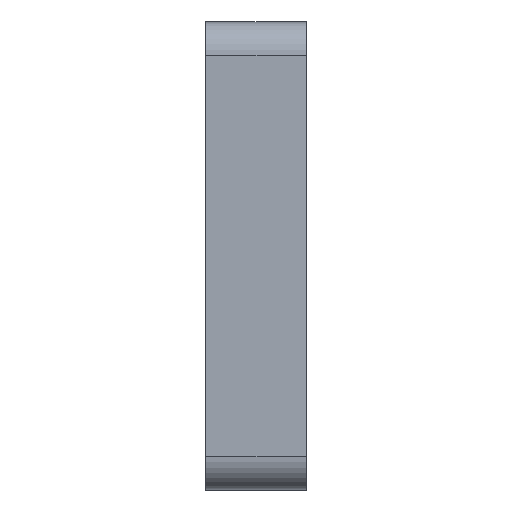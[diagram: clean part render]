
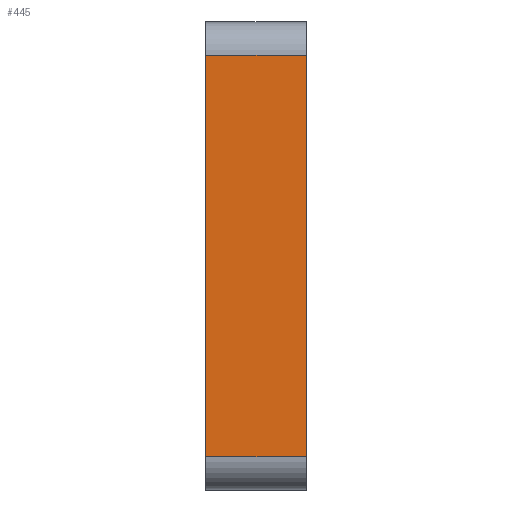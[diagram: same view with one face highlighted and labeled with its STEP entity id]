
A CAD part, left-side view. The second image highlights one B-rep face of the part: STEP entity #445.
In plain terms, the highlighted planar face has unit normal (-1, 0, 0).
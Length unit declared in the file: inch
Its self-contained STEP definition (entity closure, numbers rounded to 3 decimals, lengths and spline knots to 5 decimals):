
#21 = DIRECTION ( 'NONE',  ( 0., 0., 1. ) ) ;
#69 = ORIENTED_EDGE ( 'NONE', *, *, #543, .T. ) ;
#108 = ORIENTED_EDGE ( 'NONE', *, *, #1446, .T. ) ;
#112 = ORIENTED_EDGE ( 'NONE', *, *, #1902, .F. ) ;
#138 = VECTOR ( 'NONE', #1522, 39.37008 ) ;
#139 = ORIENTED_EDGE ( 'NONE', *, *, #1121, .T. ) ;
#228 = VERTEX_POINT ( 'NONE', #1300 ) ;
#263 = EDGE_LOOP ( 'NONE', ( #139, #108, #112, #69 ) ) ;
#371 = LINE ( 'NONE', #1529, #1591 ) ;
#389 = VERTEX_POINT ( 'NONE', #441 ) ;
#441 = CARTESIAN_POINT ( 'NONE',  ( -1., 0.375, 0.75 ) ) ;
#445 = ADVANCED_FACE ( 'NONE', ( #2086 ), #2021, .T. ) ;
#543 = EDGE_CURVE ( 'NONE', #1969, #2139, #1079, .T. ) ;
#624 = CARTESIAN_POINT ( 'NONE',  ( -1., 0., -0.75 ) ) ;
#636 = AXIS2_PLACEMENT_3D ( 'NONE', #812, #982, #1798 ) ;
#812 = CARTESIAN_POINT ( 'NONE',  ( -1., 0., -0.875 ) ) ;
#867 = CARTESIAN_POINT ( 'NONE',  ( -1., 0.375, -0.75 ) ) ;
#929 = LINE ( 'NONE', #970, #1854 ) ;
#970 = CARTESIAN_POINT ( 'NONE',  ( -1., 0., 0.75 ) ) ;
#982 = DIRECTION ( 'NONE',  ( -1., 0., 0. ) ) ;
#1079 = LINE ( 'NONE', #624, #138 ) ;
#1121 = EDGE_CURVE ( 'NONE', #2139, #228, #371, .T. ) ;
#1122 = VECTOR ( 'NONE', #21, 39.37008 ) ;
#1300 = CARTESIAN_POINT ( 'NONE',  ( -1., 0., 0.75 ) ) ;
#1446 = EDGE_CURVE ( 'NONE', #228, #389, #929, .T. ) ;
#1517 = DIRECTION ( 'NONE',  ( 0., 0., 1. ) ) ;
#1522 = DIRECTION ( 'NONE',  ( 0., -1., 0. ) ) ;
#1529 = CARTESIAN_POINT ( 'NONE',  ( -1., 0., -0.875 ) ) ;
#1591 = VECTOR ( 'NONE', #1517, 39.37008 ) ;
#1763 = CARTESIAN_POINT ( 'NONE',  ( -1., 0.375, -0.875 ) ) ;
#1798 = DIRECTION ( 'NONE',  ( 0., 0., 1. ) ) ;
#1854 = VECTOR ( 'NONE', #2067, 39.37008 ) ;
#1902 = EDGE_CURVE ( 'NONE', #1969, #389, #2035, .T. ) ;
#1969 = VERTEX_POINT ( 'NONE', #867 ) ;
#2020 = CARTESIAN_POINT ( 'NONE',  ( -1., 0., -0.75 ) ) ;
#2021 = PLANE ( 'NONE',  #636 ) ;
#2035 = LINE ( 'NONE', #1763, #1122 ) ;
#2067 = DIRECTION ( 'NONE',  ( 0., 1., 0. ) ) ;
#2086 = FACE_OUTER_BOUND ( 'NONE', #263, .T. ) ;
#2139 = VERTEX_POINT ( 'NONE', #2020 ) ;
